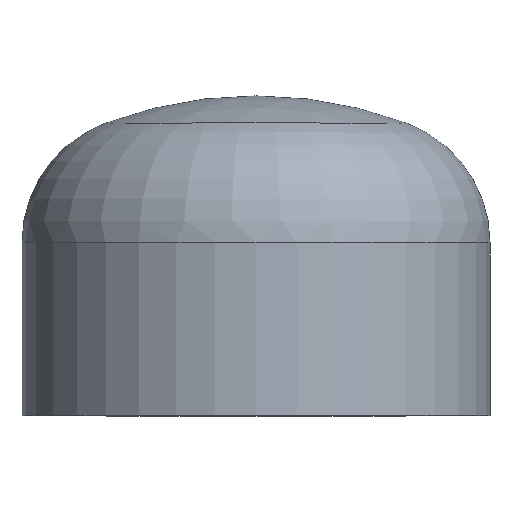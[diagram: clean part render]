
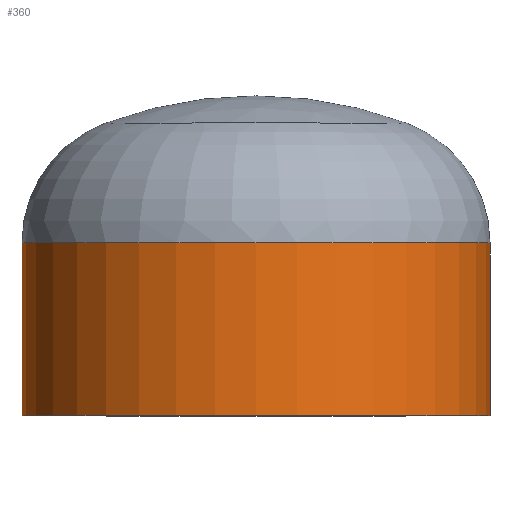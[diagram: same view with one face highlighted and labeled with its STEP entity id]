
A CAD part, top view. The second image highlights one B-rep face of the part: STEP entity #360.
In plain terms, the highlighted cylindrical face has radius 203.2 mm (diameter 406.4 mm), a partial arc.
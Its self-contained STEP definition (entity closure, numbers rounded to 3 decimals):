
#8 = AXIS2_PLACEMENT_3D ( 'NONE', #124, #346, #301 ) ;
#21 = EDGE_LOOP ( 'NONE', ( #108, #63, #176, #26 ) ) ;
#26 = ORIENTED_EDGE ( 'NONE', *, *, #402, .F. ) ;
#29 = AXIS2_PLACEMENT_3D ( 'NONE', #366, #230, #321 ) ;
#56 = CIRCLE ( 'NONE', #106, 203.2 ) ;
#63 = ORIENTED_EDGE ( 'NONE', *, *, #118, .T. ) ;
#73 = VERTEX_POINT ( 'NONE', #248 ) ;
#96 = VERTEX_POINT ( 'NONE', #304 ) ;
#106 = AXIS2_PLACEMENT_3D ( 'NONE', #294, #293, #288 ) ;
#108 = ORIENTED_EDGE ( 'NONE', *, *, #335, .T. ) ;
#109 = EDGE_CURVE ( 'NONE', #217, #73, #56, .T. ) ;
#115 = FACE_OUTER_BOUND ( 'NONE', #21, .T. ) ;
#118 = EDGE_CURVE ( 'NONE', #96, #73, #174, .T. ) ;
#124 = CARTESIAN_POINT ( 'NONE',  ( 0., 0., 0. ) ) ;
#161 = VERTEX_POINT ( 'NONE', #279 ) ;
#174 = LINE ( 'NONE', #187, #255 ) ;
#176 = ORIENTED_EDGE ( 'NONE', *, *, #109, .F. ) ;
#184 = CARTESIAN_POINT ( 'NONE',  ( 203.2, 0., 0. ) ) ;
#187 = CARTESIAN_POINT ( 'NONE',  ( -203.2, 0., 0. ) ) ;
#197 = VECTOR ( 'NONE', #348, 1000. ) ;
#207 = CARTESIAN_POINT ( 'NONE',  ( 203.2, 0., 0. ) ) ;
#213 = LINE ( 'NONE', #184, #197 ) ;
#217 = VERTEX_POINT ( 'NONE', #207 ) ;
#230 = DIRECTION ( 'NONE',  ( 0., -1., 0. ) ) ;
#248 = CARTESIAN_POINT ( 'NONE',  ( -203.2, 0., 0. ) ) ;
#255 = VECTOR ( 'NONE', #287, 1000. ) ;
#268 = CYLINDRICAL_SURFACE ( 'NONE', #8, 203.2 ) ;
#279 = CARTESIAN_POINT ( 'NONE',  ( 203.2, 150., 0. ) ) ;
#283 = CIRCLE ( 'NONE', #29, 203.2 ) ;
#287 = DIRECTION ( 'NONE',  ( 0., -1., 0. ) ) ;
#288 = DIRECTION ( 'NONE',  ( 1., 0., 0. ) ) ;
#293 = DIRECTION ( 'NONE',  ( 0., -1., 0. ) ) ;
#294 = CARTESIAN_POINT ( 'NONE',  ( 0., 0., 0. ) ) ;
#301 = DIRECTION ( 'NONE',  ( 1., 0., 0. ) ) ;
#304 = CARTESIAN_POINT ( 'NONE',  ( -203.2, 150., 0. ) ) ;
#321 = DIRECTION ( 'NONE',  ( 1., 0., 0. ) ) ;
#335 = EDGE_CURVE ( 'NONE', #161, #96, #283, .T. ) ;
#346 = DIRECTION ( 'NONE',  ( 0., -1., 0. ) ) ;
#348 = DIRECTION ( 'NONE',  ( 0., -1., 0. ) ) ;
#360 = ADVANCED_FACE ( 'NONE', ( #115 ), #268, .T. ) ;
#366 = CARTESIAN_POINT ( 'NONE',  ( 0., 150., 0. ) ) ;
#402 = EDGE_CURVE ( 'NONE', #161, #217, #213, .T. ) ;
